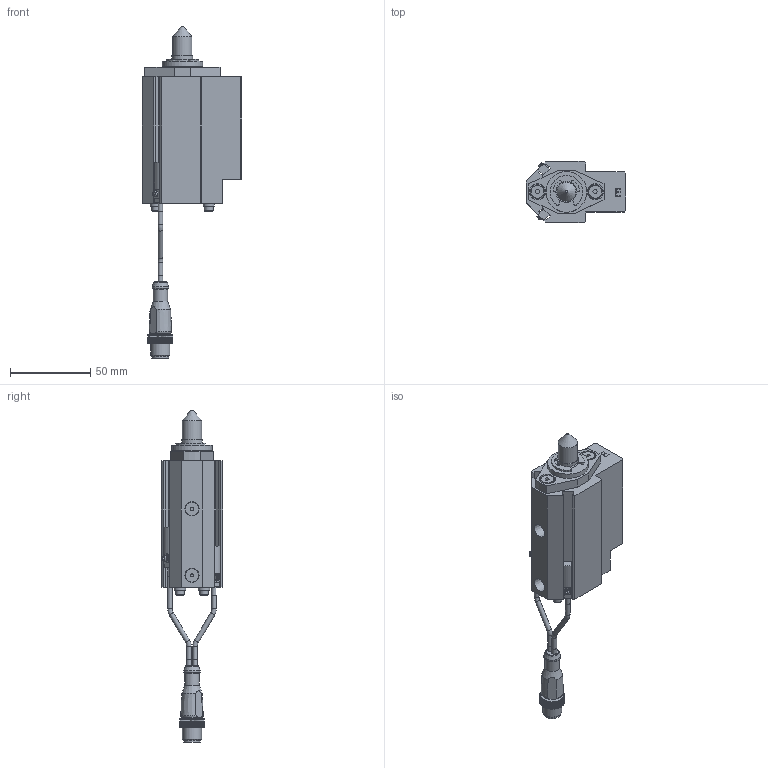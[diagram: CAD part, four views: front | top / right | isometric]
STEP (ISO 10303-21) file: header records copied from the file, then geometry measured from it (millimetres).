
FILE_DESCRIPTION(/* description */ ('NAAMS FLOATING MICRO PIN'),/* implementation_level */ '2;1');
FILE_NAME(/* name */ 'C:\Vault Workspace\CAD\Welker\Shot Pin\NMP\NMP120012AENL3.stp',/* time_stamp */ '2021-01-27T10:11:11-05:00',/* author */ ('WELKER'),/* organization */ (''),/* preprocessor_version */ 'ST-DEVELOPER v18.1',/* originating_system */ 'Autodesk Inventor 2020',/* authorisation */ '');
FILE_SCHEMA (('AUTOMOTIVE_DESIGN { 1 0 10303 214 3 1 1 }'));
Length unit declared in the file: millimetre
Products named in the file (16): NMPL01; NMP L3 SWITCH; L3 Connector; L3 Sensor 1; L3 Sensor 2; L3 Sensor cable; L3 Sensor cable 2; M3X0.5-8 SHCS; NL3; NMPE06; NMPE03; NMPE05-DIA-LENGTH; 985432A218; NMPE01E-PORT; RMPE02; M5X5 SHOULDER
Assembly tree (22 placements, depth 3):
  NMPL01
    NMP L3 SWITCH
      L3 Connector
      L3 Sensor 1
      L3 Sensor 2
      L3 Sensor cable
      L3 Sensor cable 2
    M3X0.5-8 SHCS  x4
    NL3  x4
    NMPE06
    NMPE03
    NMPE05-DIA-LENGTH
    985432A218
    NMPE01E-PORT
    RMPE02
    M5X5 SHOULDER  x2
Bounding box: 62 x 38.1 x 207.12 mm (x, y, z)
Volume: 113842.7 mm3; surface area: 44663.6 mm2
Topology: 21 solids, 21 shells, 748 faces, 2030 edges, 1357 vertices
Faces by surface type: plane 553, cylinder 144, cone 35, torus 11, sphere 3, bspline 2
Full cylindrical faces by diameter (mm): 2 x2, 2.459 x4, 2.9 x10, 3 x5, 3.242 x2, 3.4 x4, 4 x2, 5 x6, 5.5 x4, 6.647 x2, 7 x4, 8 x2, 8.3 x2, 9 x3, 10 x3, 10.4 x1, 10.5 x1, 12 x2, 13 x3, 16 x2, 19.05 x3, 21 x1, 22.5 x1, 23.672 x1, 24 x1, 25.4 x1, 25.5 x1, 26.5 x1, 28.677 x1, 29.21 x1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
Entity records: 22859 total; most frequent: CARTESIAN_POINT 4181, ORIENTED_EDGE 3752, DIRECTION 3736, EDGE_CURVE 1876, LINE 1388, VECTOR 1388, VERTEX_POINT 1262, AXIS2_PLACEMENT_3D 1174
